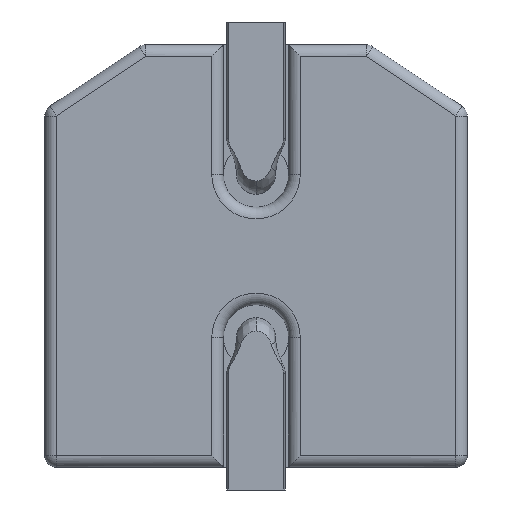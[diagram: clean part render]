
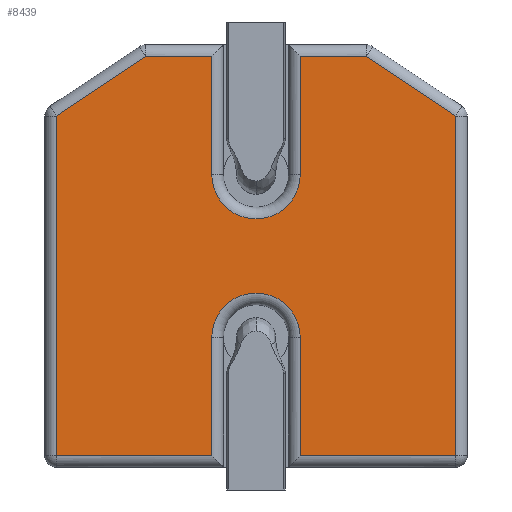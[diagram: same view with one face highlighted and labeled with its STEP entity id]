
A CAD part, left-side view. The second image highlights one B-rep face of the part: STEP entity #8439.
In plain terms, the highlighted planar face has unit normal (-1, 0, 0) as drawn and (0, -1, 0) by its records, which use the part's own axes.
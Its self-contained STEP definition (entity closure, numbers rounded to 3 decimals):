
#7014=DIRECTION('',(-0.832,0.,0.555));
#7015=VECTOR('',#7014,1.652);
#7016=CARTESIAN_POINT('',(3.07,0.,2.154));
#7017=LINE('',#7016,#7015);
#7018=DIRECTION('',(0.,0.,1.));
#7019=VECTOR('',#7018,5.224);
#7020=CARTESIAN_POINT('',(3.07,0.,-3.07));
#7021=LINE('',#7020,#7019);
#7022=DIRECTION('',(1.,0.,0.));
#7023=VECTOR('',#7022,2.39);
#7024=CARTESIAN_POINT('',(0.68,0.,-3.07));
#7025=LINE('',#7024,#7023);
#7026=DIRECTION('',(0.,0.,-1.));
#7027=VECTOR('',#7026,1.82);
#7028=CARTESIAN_POINT('',(0.68,0.,-1.25));
#7029=LINE('',#7028,#7027);
#7030=DIRECTION('',(0.,0.,1.));
#7031=VECTOR('',#7030,1.82);
#7032=CARTESIAN_POINT('',(-0.68,0.,-3.07));
#7033=LINE('',#7032,#7031);
#7034=DIRECTION('',(1.,0.,0.));
#7035=VECTOR('',#7034,2.39);
#7036=CARTESIAN_POINT('',(-3.07,0.,-3.07));
#7037=LINE('',#7036,#7035);
#7038=DIRECTION('',(0.,0.,-1.));
#7039=VECTOR('',#7038,5.224);
#7040=CARTESIAN_POINT('',(-3.07,0.,2.154));
#7041=LINE('',#7040,#7039);
#7042=DIRECTION('',(0.832,0.,0.555));
#7043=VECTOR('',#7042,1.652);
#7044=CARTESIAN_POINT('',(-3.07,0.,2.154));
#7045=LINE('',#7044,#7043);
#7046=DIRECTION('',(-1.,0.,0.));
#7047=VECTOR('',#7046,1.016);
#7048=CARTESIAN_POINT('',(-0.68,0.,3.07));
#7049=LINE('',#7048,#7047);
#7050=DIRECTION('',(0.,0.,1.));
#7051=VECTOR('',#7050,1.82);
#7052=CARTESIAN_POINT('',(-0.68,0.,1.25));
#7053=LINE('',#7052,#7051);
#7054=DIRECTION('',(0.,0.,-1.));
#7055=VECTOR('',#7054,1.82);
#7056=CARTESIAN_POINT('',(0.68,0.,3.07));
#7057=LINE('',#7056,#7055);
#7058=DIRECTION('',(-1.,0.,0.));
#7059=VECTOR('',#7058,1.016);
#7060=CARTESIAN_POINT('',(1.696,0.,3.07));
#7061=LINE('',#7060,#7059);
#7092=CARTESIAN_POINT('',(0.68,0.,3.07));
#7094=CARTESIAN_POINT('',(0.,0.,1.25));
#7095=DIRECTION('',(0.,1.,0.));
#7096=DIRECTION('',(1.,0.,0.));
#7097=AXIS2_PLACEMENT_3D('',#7094,#7095,#7096);
#7176=CARTESIAN_POINT('',(-0.68,0.,-3.07));
#7178=CARTESIAN_POINT('',(0.,0.,-1.25));
#7179=DIRECTION('',(0.,1.,0.));
#7180=DIRECTION('',(-1.,0.,0.));
#7181=AXIS2_PLACEMENT_3D('',#7178,#7179,#7180);
#7198=CARTESIAN_POINT('',(0.68,0.,-3.07));
#8226=CARTESIAN_POINT('',(-3.07,0.,-3.07));
#8228=VERTEX_POINT('',#8226);
#8237=VERTEX_POINT('',#7176);
#8238=CARTESIAN_POINT('',(3.07,0.,-3.07));
#8240=VERTEX_POINT('',#8238);
#8243=VERTEX_POINT('',#7198);
#8262=CARTESIAN_POINT('',(1.696,0.,3.07));
#8264=VERTEX_POINT('',#8262);
#8277=VERTEX_POINT('',#7092);
#8279=CARTESIAN_POINT('',(-1.696,0.,3.07));
#8281=VERTEX_POINT('',#8279);
#8322=CARTESIAN_POINT('',(3.07,0.,2.154));
#8323=VERTEX_POINT('',#8322);
#8324=CARTESIAN_POINT('',(-0.68,0.,3.07));
#8325=VERTEX_POINT('',#8324);
#8372=CARTESIAN_POINT('',(-0.68,0.,-1.25));
#8373=VERTEX_POINT('',#8372);
#8380=CARTESIAN_POINT('',(0.68,0.,-1.25));
#8381=VERTEX_POINT('',#8380);
#8384=CARTESIAN_POINT('',(-3.07,0.,2.154));
#8385=VERTEX_POINT('',#8384);
#8390=CARTESIAN_POINT('',(0.68,0.,1.25));
#8391=VERTEX_POINT('',#8390);
#8398=CARTESIAN_POINT('',(-0.68,0.,1.25));
#8399=VERTEX_POINT('',#8398);
#8404=CARTESIAN_POINT('',(0.,0.,0.));
#8405=DIRECTION('',(0.,1.,0.));
#8406=DIRECTION('',(0.,0.,1.));
#8407=AXIS2_PLACEMENT_3D('',#8404,#8405,#8406);
#8408=PLANE('',#8407);
#8410=ORIENTED_EDGE('',*,*,#8409,.F.);
#8412=ORIENTED_EDGE('',*,*,#8411,.F.);
#8414=ORIENTED_EDGE('',*,*,#8413,.F.);
#8416=ORIENTED_EDGE('',*,*,#8415,.F.);
#8418=ORIENTED_EDGE('',*,*,#8417,.F.);
#8420=ORIENTED_EDGE('',*,*,#8419,.F.);
#8422=ORIENTED_EDGE('',*,*,#8421,.F.);
#8424=ORIENTED_EDGE('',*,*,#8423,.F.);
#8426=ORIENTED_EDGE('',*,*,#8425,.T.);
#8428=ORIENTED_EDGE('',*,*,#8427,.F.);
#8430=ORIENTED_EDGE('',*,*,#8429,.F.);
#8432=ORIENTED_EDGE('',*,*,#8431,.F.);
#8434=ORIENTED_EDGE('',*,*,#8433,.F.);
#8436=ORIENTED_EDGE('',*,*,#8435,.F.);
#8437=EDGE_LOOP('',(#8410,#8412,#8414,#8416,#8418,#8420,#8422,#8424,#8426,#8428,
#8430,#8432,#8434,#8436));
#8438=FACE_OUTER_BOUND('',#8437,.F.);
#8439=ADVANCED_FACE('',(#8438),#8408,.F.);
#7098=CIRCLE('',#7097,0.68);
#7182=CIRCLE('',#7181,0.68);
#8409=EDGE_CURVE('',#8323,#8264,#7017,.T.);
#8411=EDGE_CURVE('',#8240,#8323,#7021,.T.);
#8413=EDGE_CURVE('',#8243,#8240,#7025,.T.);
#8415=EDGE_CURVE('',#8381,#8243,#7029,.T.);
#8417=EDGE_CURVE('',#8373,#8381,#7182,.T.);
#8419=EDGE_CURVE('',#8237,#8373,#7033,.T.);
#8421=EDGE_CURVE('',#8228,#8237,#7037,.T.);
#8423=EDGE_CURVE('',#8385,#8228,#7041,.T.);
#8425=EDGE_CURVE('',#8385,#8281,#7045,.T.);
#8427=EDGE_CURVE('',#8325,#8281,#7049,.T.);
#8429=EDGE_CURVE('',#8399,#8325,#7053,.T.);
#8431=EDGE_CURVE('',#8391,#8399,#7098,.T.);
#8433=EDGE_CURVE('',#8277,#8391,#7057,.T.);
#8435=EDGE_CURVE('',#8264,#8277,#7061,.T.);
